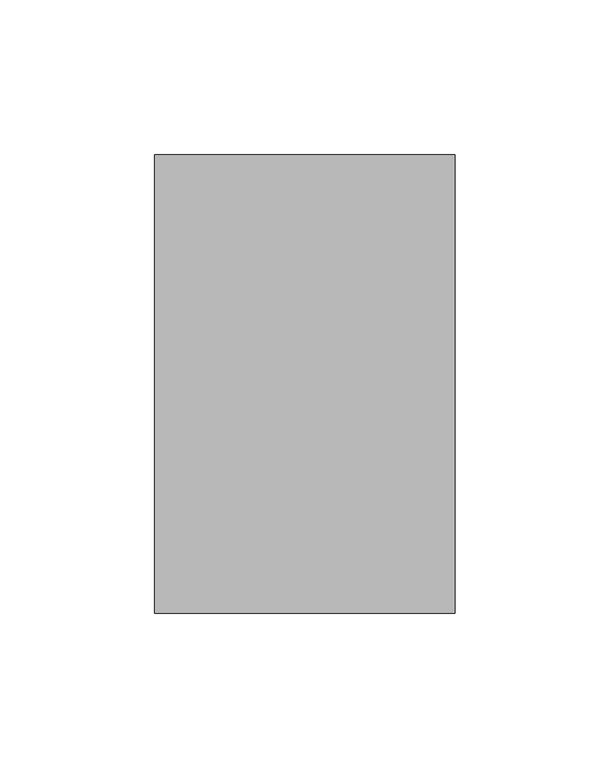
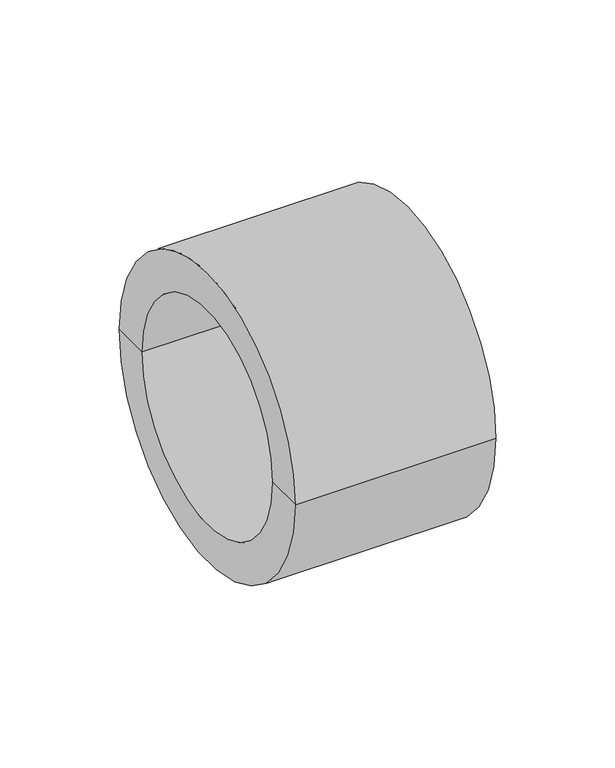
"""IFC4 building model written with IfcOpenShell, lengths in millimetres: pipe fitting geometry, EGB_VASEN_ PPR_Tapon WXR700 : Tapón WXR700."""

from ifc_helpers import new_model, si_unit, frame, origin, place, context, project, spatial, polyline, circle_curve, source, transform, mapped, element, save
from ifc_brep_helpers import plane_surface, cylinder_surface, revolved_surface, advanced_brep


def pipe_fitting_c192ef7b(model_context):
    return source(origin(), model_context, "Body", "AdvancedBrep", [
        advanced_brep(
        [(0.0, -74.0, 0.0), (0.0, 74.0, 0.0), (97.0, 74.0, 0.0), (97.0, -74.0, 0.0), (0.0, -55.0, 0.0), (0.0, 55.0, 0.0), (78.0, -55.0, 0.0), (78.0, 55.0, 0.0), (78.0, 0.0, 0.0), (97.0, 0.0, 0.0)],
        [
            (0, 1, circle_curve(frame((0.0, 0.0, 0.0), z_axis=(1.0, 0.0, 0.0), x_axis=(0.0, 1.0, 0.0)), 74.0)),
            (1, 2),
            (2, 3, circle_curve(frame((97.0, 0.0, 0.0), z_axis=(-1.0, 0.0, 0.0), x_axis=(0.0, 1.0, 0.0)), 74.0)),
            (3, 0),
            (1, 0, circle_curve(frame((0.0, 0.0, 0.0), z_axis=(1.0, 0.0, 0.0), x_axis=(0.0, 1.0, 0.0)), 74.0)),
            (3, 2, circle_curve(frame((97.0, 0.0, 0.0), z_axis=(-1.0, 0.0, 0.0), x_axis=(0.0, 1.0, 0.0)), 74.0)),
            (4, 5, circle_curve(frame((0.0, 0.0, 0.0), z_axis=(1.0, 0.0, 0.0), x_axis=(0.0, 1.0, 0.0)), 55.0)),
            (5, 1),
            (0, 4),
            (5, 4, circle_curve(frame((0.0, 0.0, 0.0), z_axis=(1.0, 0.0, 0.0), x_axis=(0.0, 1.0, 0.0)), 55.0)),
            (6, 7, circle_curve(frame((78.0, 0.0, 0.0), z_axis=(1.0, 0.0, 0.0), x_axis=(0.0, 1.0, 0.0)), 55.0)),
            (7, 5),
            (4, 6),
            (7, 6, circle_curve(frame((78.0, 0.0, 0.0), z_axis=(1.0, 0.0, 0.0), x_axis=(0.0, 1.0, 0.0)), 55.0)),
            (8, 7),
            (6, 8),
            (2, 9),
            (9, 3),
        ],
        [
            cylinder_surface(frame((71.258615, 0.0, 0.0), z_axis=(-1.0, 0.0, 0.0), x_axis=(0.0, 1.0, 0.0)), 74.0),
            plane_surface(frame((0.0, 0.0, 0.0), z_axis=(-1.0, 0.0, 0.0), x_axis=(0.0, 1.0, 0.0))),
            revolved_surface(polyline([(0.0, 55.0, 0.0), (78.0, 55.0, 0.0)]), (71.258615, 0.0, 0.0), (-1.0, 0.0, 0.0)),
            plane_surface(frame((78.0, 0.0, 0.0), z_axis=(-1.0, 0.0, 0.0), x_axis=(0.0, 1.0, 0.0))),
            plane_surface(frame((97.0, 0.0, 0.0), z_axis=(1.0, 0.0, 0.0), x_axis=(0.0, 1.0, 0.0))),
        ],
        [
            (0, [[1, 2, 3, 4]]),
            (0, [[5, -4, 6, -2]]),
            (1, [[7, 8, -1, 9]]),
            (1, [[10, -9, -5, -8]]),
            (2, [[11, 12, -7, 13]]),
            (2, [[14, -13, -10, -12]]),
            (3, [[15, -11, 16]]),
            (3, [[-16, -14, -15]]),
            (4, [[-3, 17, 18]]),
            (4, [[-6, -18, -17]]),
        ],
    ),
    ])


if __name__ == "__main__":
    model = new_model("IFC4")
    model_context = context("Model", 3, world=origin())
    ifc_project = project(units=[si_unit("LENGTHUNIT", "METRE", prefix="MILLI")], contexts=[model_context])
    site = spatial("IfcSite", under=ifc_project)
    building = spatial("IfcBuilding", under=site)
    placement = place(None, origin())
    pipe_fitting_shape = pipe_fitting_c192ef7b(model_context)
    element("IfcPipeFitting", 1, ObjectType="EGB_VASEN_ PPR_Tapon WXR700 : Tapón WXR700", at=placement, inside=building, context=model_context, shape_type="MappedRepresentation", body=[
        mapped(pipe_fitting_shape, transform((0.0, 0.0, 0.0), x_axis=(1.0, 0.0, 0.0), y_axis=(0.0, 1.0, 0.0), z_axis=(0.0, 0.0, 1.0))),
    ])
    save(model, "model.ifc")
